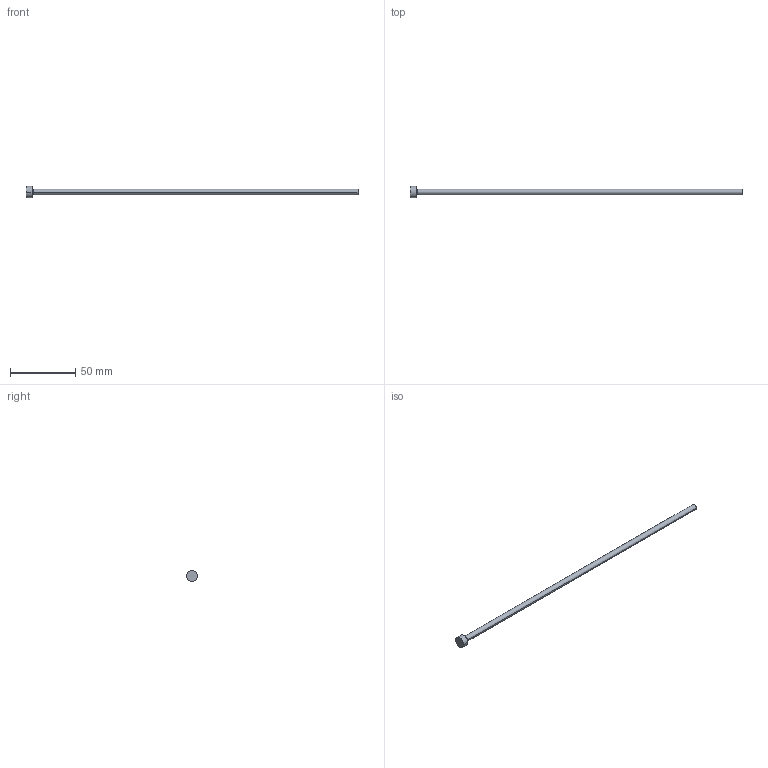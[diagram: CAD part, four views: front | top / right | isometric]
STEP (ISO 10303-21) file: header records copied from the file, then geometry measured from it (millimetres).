
FILE_DESCRIPTION (( 'STEP AP214' ), '1' );
FILE_NAME ('P12-10.STEP', '2020-03-11T18:13:25', ( '' ), ( '' ), 'SwSTEP 2.0', 'SolidWorks 2018', '' );
FILE_SCHEMA (( 'AUTOMOTIVE_DESIGN' ));
Length unit declared in the file: inch
Products named in the file (1): P12-10
Bounding box: 254 x 8.73 x 8.73 mm (x, y, z)
Volume: 4004.4 mm3; surface area: 3655.2 mm2
Topology: 1 solids, 1 shells, 13 faces, 24 edges, 14 vertices
Faces by surface type: cone 4, cylinder 4, plane 3, torus 2
Entity records: 366 total; most frequent: DIRECTION 68, CARTESIAN_POINT 52, ORIENTED_EDGE 48, AXIS2_PLACEMENT_3D 30, EDGE_CURVE 24, CIRCLE 16, VERTEX_POINT 14, EDGE_LOOP 14
